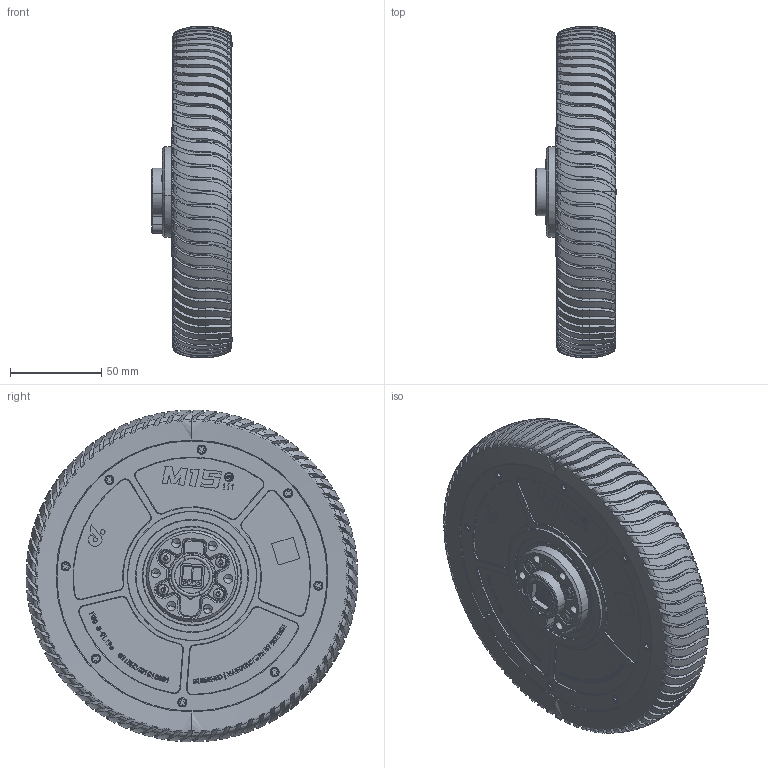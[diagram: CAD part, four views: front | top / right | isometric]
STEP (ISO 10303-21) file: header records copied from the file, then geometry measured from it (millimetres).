
FILE_DESCRIPTION (( 'STEP AP203' ), '1' );
FILE_NAME ('CP.BM.000150 M1505B_111 俋倛芞耀倰.STEP', '2024-06-14T06:30:02', ( '003' ), ( '' ), 'SwSTEP 2.0', 'SolidWorks 2018', '' );
FILE_SCHEMA (( 'CONFIG_CONTROL_DESIGN' ));
Length unit declared in the file: millimetre
Products named in the file (4): BC.BM.DT00018.01 M1505A_222 諉諳啣; M1505A_111 电机总成（单电机）; BM.XJ.AC00010.01 M1505A_111_謫怚_蚾饜綴; CP.BM.000150  M1505B_111 俋倛芞耀倰
Assembly tree (3 placements, depth 2):
  CP.BM.000150  M1505B_111 俋倛芞耀倰
    BM.XJ.AC00010.01 M1505A_111_謫怚_蚾饜綴
    M1505A_111 电机总成（单电机）
    BC.BM.DT00018.01 M1505A_222 諉諳啣
Bounding box: 44.08 x 182.2 x 182.2 mm (x, y, z)
Volume: 638720.6 mm3; surface area: 144439.7 mm2
Topology: 14 solids, 22 shells, 4220 faces, 11672 edges, 7034 vertices
Faces by surface type: bspline 1808, plane 1272, cylinder 791, cone 290, torus 51, sphere 8
Entity records: 297018 total; most frequent: CARTESIAN_POINT 207084, ORIENTED_EDGE 22006, DIRECTION 13922, EDGE_CURVE 11003, VERTEX_POINT 7034, AXIS2_PLACEMENT_3D 4906, EDGE_LOOP 4529, FACE_OUTER_BOUND 4220
